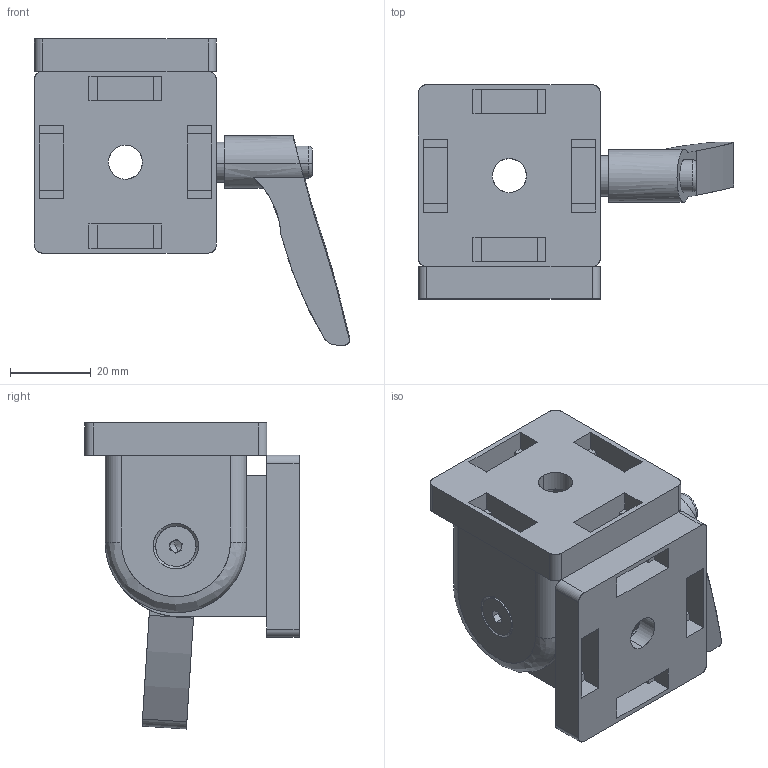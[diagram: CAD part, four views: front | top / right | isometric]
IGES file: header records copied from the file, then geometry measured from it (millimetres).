
Start section: SolidWorks IGES file using analytic representation for surfaces
Global section: file name: D:\LETROMEC CATALOGUE\SWIVEL JOINT\CP-SJ45X45H\CP-SJ45X45H.IGS; native system: SolidWorks 2013; preprocessor: SolidWorks 2013; author: User; date: 180316.203336; units: millimetre
Bounding box: 78 x 53 x 75.76 mm (x, y, z)
Surface area: 28937.6 mm2 (no closed solid volume)
Topology: 0 solids, 0 shells, 216 faces, 2262 edges, 2260 vertices
Faces by surface type: bspline 153, revolution 63
